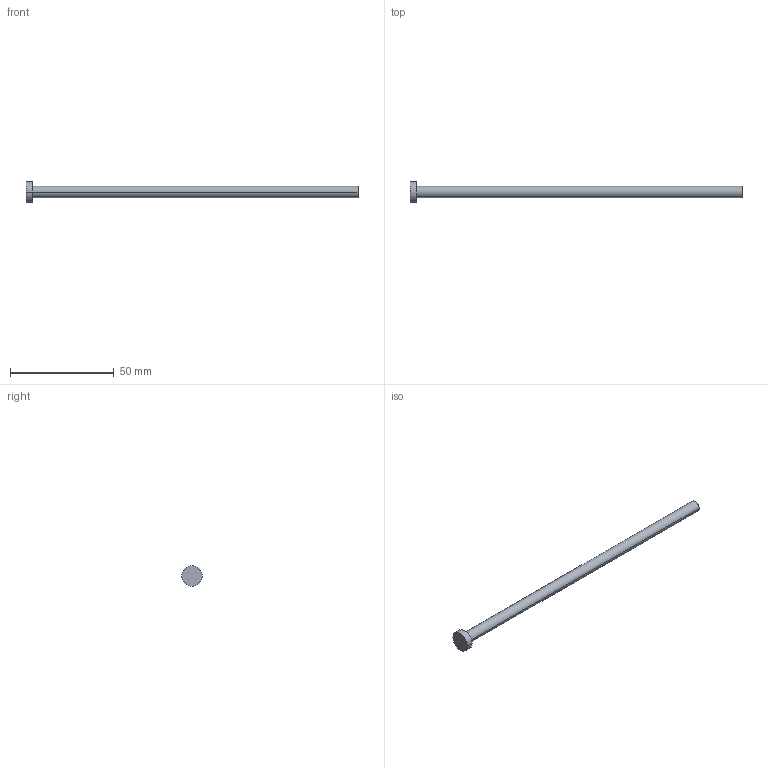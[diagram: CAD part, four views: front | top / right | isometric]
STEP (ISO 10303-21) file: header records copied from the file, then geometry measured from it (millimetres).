
FILE_DESCRIPTION (( 'STEP AP214' ), '1' );
FILE_NAME ('A-5,5x160.STEP', '2020-05-29T15:31:43', ( 'August' ), ( '' ), 'SwSTEP 2.0', 'SolidWorks 2018', '' );
FILE_SCHEMA (( 'AUTOMOTIVE_DESIGN' ));
Length unit declared in the file: millimetre
Products named in the file (1): A-5,5x160
Bounding box: 160 x 10 x 10 mm (x, y, z)
Volume: 3966 mm3; surface area: 2961.9 mm2
Topology: 1 solids, 1 shells, 9 faces, 16 edges, 10 vertices
Faces by surface type: cylinder 4, plane 3, torus 2
Entity records: 260 total; most frequent: DIRECTION 48, CARTESIAN_POINT 36, ORIENTED_EDGE 32, AXIS2_PLACEMENT_3D 22, EDGE_CURVE 16, CIRCLE 12, EDGE_LOOP 10, VERTEX_POINT 10
